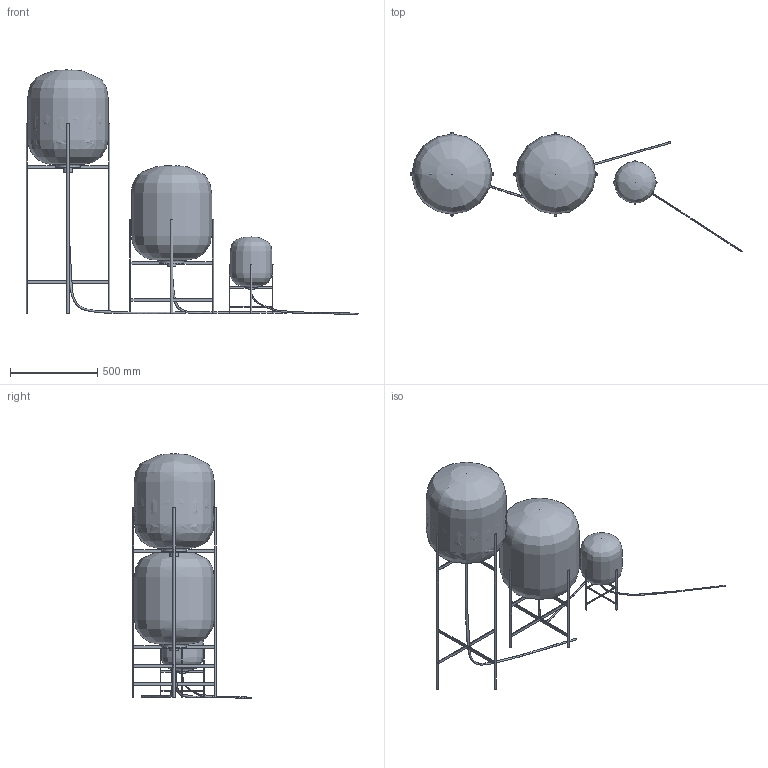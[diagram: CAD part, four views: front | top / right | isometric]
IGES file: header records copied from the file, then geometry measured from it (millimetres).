
Global section: file name: K:\Pulpo Oda.igs; native system: Rhinoceros ( Feb 22 2008 ); preprocessor: Trout Lake IGES 012 Feb 22 2008; date: 160223.151129; units: millimetre
Bounding box: 1907.49 x 686.32 x 1402.99 mm (x, y, z)
Surface area: 7002836.4 mm2 (no closed solid volume)
Topology: 0 solids, 0 shells, 286 faces, 1350 edges, 1325 vertices
Faces by surface type: bspline 286
